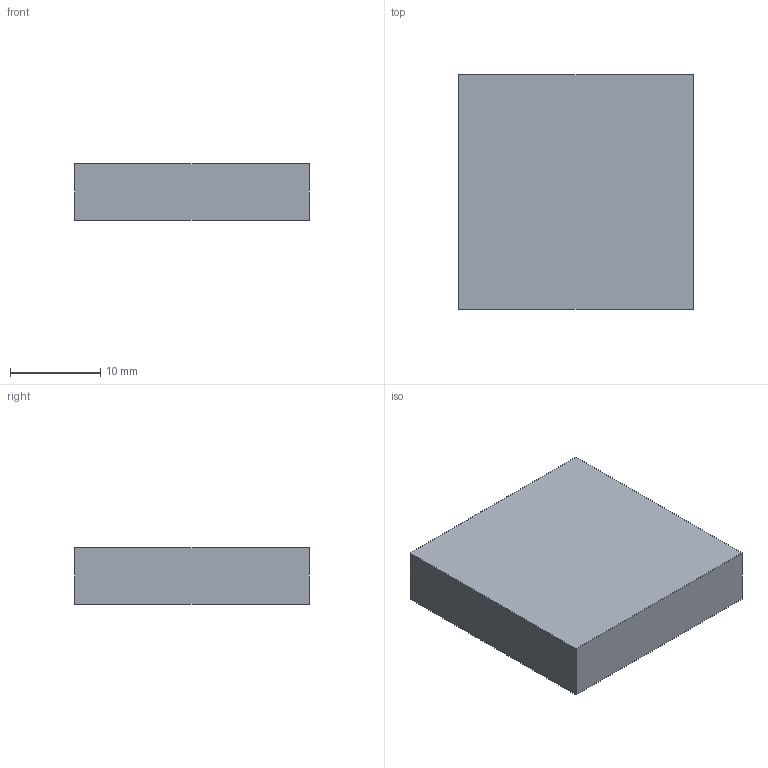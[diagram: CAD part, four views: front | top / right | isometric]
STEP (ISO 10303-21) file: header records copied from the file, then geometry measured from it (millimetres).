
FILE_DESCRIPTION(('Open CASCADE Model'),'2;1');
FILE_NAME('Open CASCADE Shape Model','2026-11-05T16:50:22',('Author'),( 'Open CASCADE'),'Open CASCADE STEP processor 7.9','Open CASCADE 7.9' ,'Unknown');
FILE_SCHEMA(('AUTOMOTIVE_DESIGN { 1 0 10303 214 1 1 1 1 }'));
Length unit declared in the file: millimetre
Products named in the file (2): SDL4-0002_REV_A_heatsink-clearance; REFERENCE_ONLY_26x26_HEATSINK_RESERVED_VOLUME
Assembly tree (1 placements, depth 2):
  SDL4-0002_REV_A_heatsink-clearance
    REFERENCE_ONLY_26x26_HEATSINK_RESERVED_VOLUME
Bounding box: 26 x 26 x 6.25 mm (x, y, z)
Volume: 4227.7 mm3; surface area: 2002.4 mm2
Topology: 1 solids, 1 shells, 6 faces, 12 edges, 8 vertices
Faces by surface type: plane 6
Entity records: 349 total; most frequent: CARTESIAN_POINT 52, DIRECTION 52, LINE 36, VECTOR 36, ORIENTED_EDGE 24, PCURVE 24, DEFINITIONAL_REPRESENTATION 24, EDGE_CURVE 12
